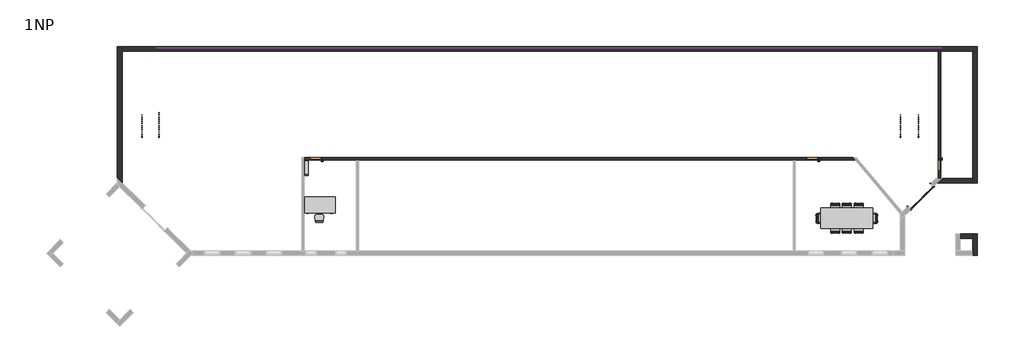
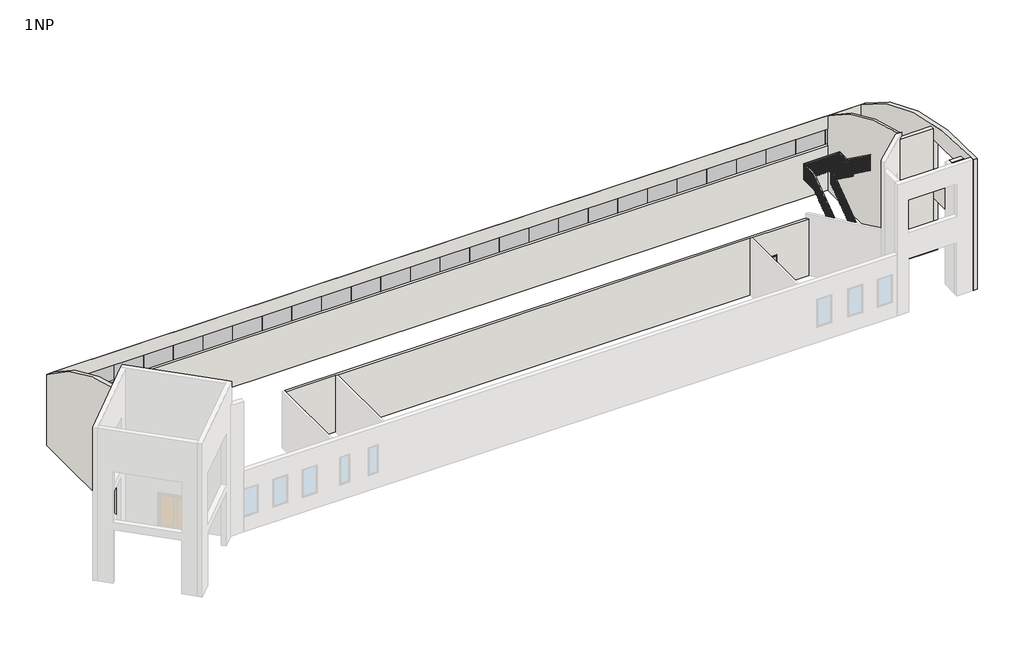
# One storey, part 2 of 2: 26 plates, 12 furniture elements, 7 walls, 4 doors, 4 railings.
"""IFC4 building model written with IfcOpenShell, lengths in millimetres."""

from ifc_helpers import new_model, si_unit, point, frame, frame_2d, origin, place, context, project, spatial, polyline, circle_curve, ellipse_curve, trimmed, segment, composite_curve, outline, extrude, faceted_brep, transform, mapped, element, save
from ifc_brep_helpers import plane_surface, cylinder_surface, advanced_brep
from components import door_1800_x_1970mm_3c2632e2, door_900_x_2000_4c66a93d, furniture_b7f3823b, furniture_3b363349, furniture_ccc35c8f, furniture_0915_x_0254_x_1830mm_1d5e155e, furniture_1200_x_3050mm_930714f4, furniture_1800_x_900mm_2fcb012d, system_panel_glazed_e7f7cd54, system_panel_glazed_2bdfee25, railing_1100mm_7da75a1e, railing_1100mm_276dff7a, railing_1100mm_749a05fc, railing_1100mm_07c990a1

model = new_model("IFC4")

# Units and contexts
model_context = context("Model", 3, world=origin())
ifc_project = project(units=[si_unit("LENGTHUNIT", "METRE", prefix="MILLI")], contexts=[model_context])

# Site, building, storey
site = spatial("IfcSite", under=ifc_project)
building = spatial("IfcBuilding", under=site)
storey = spatial("IfcBuildingStorey", under=building, Name="1NP", Elevation=0.0)

# Doors
placement = place(None, origin())
door_1800_x_1970mm_shape = door_1800_x_1970mm_3c2632e2(model_context)
element("IfcDoor", 1, ObjectType="Dvoukridle prosklene : 1800 x 1970mm", at=placement, inside=storey, context=model_context, shape_type="MappedRepresentation", body=[
    mapped(door_1800_x_1970mm_shape, transform((35397.5898577, -1433.3591998, 0.0), x_axis=(0.7071067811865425, 0.7071067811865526, 0.0), y_axis=(-0.7071067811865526, 0.7071067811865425, 0.0), z_axis=(0.0, 0.0, 1.0))),
])
door_900_x_2000_shape = door_900_x_2000_4c66a93d(model_context)
element("IfcDoor", 2, ObjectType="Jednokridle oboustrana zaruben : 900 x 2000", at=placement, inside=storey, context=model_context, shape_type="MappedRepresentation", body=[
    mapped(door_900_x_2000_shape, transform((29135.9255273, 791.5551306, 0.0), x_axis=(1.0, 0.0, 0.0), y_axis=(0.0, 1.0, 0.0), z_axis=(0.0, 0.0, 1.0))),
])
element("IfcDoor", 3, ObjectType="Jednokridle oboustrana zaruben : 900 x 2000", at=placement, inside=storey, context=model_context, shape_type="MappedRepresentation", body=[
    mapped(door_900_x_2000_shape, transform((36489.1755273, 502.5551306, 0.0), x_axis=(0.0, 1.0, 0.0), y_axis=(-1.0, 0.0, 0.0), z_axis=(0.0, 0.0, 1.0))),
])
element("IfcDoor", 4, ObjectType="Jednokridle oboustrana zaruben : 900 x 2000", at=placement, inside=storey, context=model_context, shape_type="MappedRepresentation", body=[
    mapped(door_900_x_2000_shape, transform((35.9255273, 791.5551306, 0.0), x_axis=(1.0, 0.0, 0.0), y_axis=(0.0, 1.0, 0.0), z_axis=(0.0, 0.0, 1.0))),
])

# Furniture
furniture_shape = furniture_b7f3823b(model_context)
element("IfcFurniture", 5, ObjectType="Prac.zidleH : Prac.zidleHranata", at=placement, inside=storey, context=model_context, shape_type="MappedRepresentation", body=[
    mapped(furniture_shape, transform((31897.6750188, -2087.6223918, 0.0), x_axis=(-1.0000000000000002, 0.0, 0.0), y_axis=(0.0, -1.0000000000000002, 0.0), z_axis=(0.0, 0.0, 1.0))),
])
element("IfcFurniture", 6, ObjectType="Prac.zidleH : Prac.zidleHranata", at=placement, inside=storey, context=model_context, shape_type="MappedRepresentation", body=[
    mapped(furniture_shape, transform((31615.6933794, -3325.5141951, 0.0), x_axis=(1.0000000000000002, 0.0, 0.0), y_axis=(0.0, 1.0000000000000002, 0.0), z_axis=(0.0, 0.0, 1.0))),
])
element("IfcFurniture", 7, ObjectType="Prac.zidleH : Prac.zidleHranata", at=placement, inside=storey, context=model_context, shape_type="MappedRepresentation", body=[
    mapped(furniture_shape, transform((30527.9250188, -2087.6223918, 0.0), x_axis=(-1.0000000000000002, 0.0, 0.0), y_axis=(0.0, -1.0000000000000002, 0.0), z_axis=(0.0, 0.0, 1.0))),
])
element("IfcFurniture", 8, ObjectType="Prac.zidleH : Prac.zidleHranata", at=placement, inside=storey, context=model_context, shape_type="MappedRepresentation", body=[
    mapped(furniture_shape, transform((30245.9433794, -3325.5141951, 0.0), x_axis=(1.0000000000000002, 0.0, 0.0), y_axis=(0.0, 1.0000000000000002, 0.0), z_axis=(0.0, 0.0, 1.0))),
])
element("IfcFurniture", 9, ObjectType="Prac.zidleH : Prac.zidleHranata", at=placement, inside=storey, context=model_context, shape_type="MappedRepresentation", body=[
    mapped(furniture_shape, transform((31212.8000188, -2087.6223918, 0.0), x_axis=(-1.0000000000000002, 0.0, 0.0), y_axis=(0.0, -1.0000000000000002, 0.0), z_axis=(0.0, 0.0, 1.0))),
])
element("IfcFurniture", 10, ObjectType="Prac.zidleH : Prac.zidleHranata", at=placement, inside=storey, context=model_context, shape_type="MappedRepresentation", body=[
    mapped(furniture_shape, transform((30930.8183794, -3325.5141951, 0.0), x_axis=(1.0000000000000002, 0.0, 0.0), y_axis=(0.0, 1.0000000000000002, 0.0), z_axis=(0.0, 0.0, 1.0))),
])
furniture_2_shape = furniture_3b363349(model_context)
element("IfcFurniture", 11, ObjectType="Prac.zidleP : Prac.zidlePodrucky", at=placement, inside=storey, context=model_context, shape_type="MappedRepresentation", body=[
    mapped(furniture_2_shape, transform((32615.6301008, -2847.5591131, 0.0), x_axis=(0.0, 1.0000000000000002, 0.0), y_axis=(-1.0000000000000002, 0.0, 0.0), z_axis=(0.0, 0.0, 1.0))),
])
element("IfcFurniture", 12, ObjectType="Prac.zidleP : Prac.zidlePodrucky", at=placement, inside=storey, context=model_context, shape_type="MappedRepresentation", body=[
    mapped(furniture_2_shape, transform((29527.7382975, -2565.5774738, 0.0), x_axis=(0.0, -1.0000000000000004, 0.0), y_axis=(1.0000000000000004, 0.0, 0.0), z_axis=(0.0, 0.0, 1.0))),
])
furniture_3_shape = furniture_ccc35c8f(model_context)
element("IfcFurniture", 13, ObjectType="Prac.zidle : prac.zidleZaobl", at=placement, inside=storey, context=model_context, shape_type="MappedRepresentation", body=[
    mapped(furniture_3_shape, transform((149.9255273, -2877.6948694, 0.0), x_axis=(1.0, 0.0, 0.0), y_axis=(0.0, 1.0, 0.0), z_axis=(0.0, 0.0, 1.0))),
])
furniture_0915_x_0254_x_1830mm_shape = furniture_0915_x_0254_x_1830mm_1d5e155e(model_context)
element("IfcFurniture", 14, ObjectType="PolicovaSkrin : 0915 x 0254 x 1830mm", at=placement, inside=storey, context=model_context, shape_type="MappedRepresentation", body=[
    mapped(furniture_0915_x_0254_x_1830mm_shape, transform((-919.3744727, 264.8051306, 0.0), x_axis=(0.0, 1.0, 0.0), y_axis=(-1.0, 0.0, 0.0), z_axis=(0.0, 0.0, 1.0))),
])
furniture_1200_x_3050mm_shape = furniture_1200_x_3050mm_930714f4(model_context)
element("IfcFurniture", 15, ObjectType="Konf.stul : 1200 x 3050mm", at=placement, inside=storey, context=model_context, shape_type="MappedRepresentation", body=[
    mapped(furniture_1200_x_3050mm_shape, transform((31071.6841991, -2706.5682935, 0.0), x_axis=(-1.0000000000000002, 0.0, 0.0), y_axis=(0.0, -1.0000000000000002, 0.0), z_axis=(0.0, 0.0, 1.0))),
])
furniture_1800_x_900mm_shape = furniture_1800_x_900mm_2fcb012d(model_context)
element("IfcFurniture", 16, ObjectType="Prac.stul : 1800 x 900mm", at=placement, inside=storey, context=model_context, shape_type="MappedRepresentation", body=[
    mapped(furniture_1800_x_900mm_shape, transform((1058.4255273, -1473.6448694, 0.0), x_axis=(-1.0, 0.0, 0.0), y_axis=(0.0, -1.0, 0.0), z_axis=(0.0, 0.0, 1.0))),
])

# Plates
system_panel_glazed_shape = system_panel_glazed_e7f7cd54(model_context)
element("IfcPlate", 17, ObjectType="System Panel : Glazed", at=placement, inside=storey, context=model_context, shape_type="MappedRepresentation", body=[
    mapped(system_panel_glazed_shape, transform((-8495.8244727, 7241.5551306, 2916.2475184), x_axis=(1.0, 0.0, 0.0), y_axis=(0.0, 1.0, 0.0), z_axis=(0.0, 0.0, 1.0))),
])
element("IfcPlate", 18, ObjectType="System Panel : Glazed", at=placement, inside=storey, context=model_context, shape_type="MappedRepresentation", body=[
    mapped(system_panel_glazed_shape, transform((-6665.8244727, 7241.5551306, 2916.2475184), x_axis=(1.0, 0.0, 0.0), y_axis=(0.0, 1.0, 0.0), z_axis=(0.0, 0.0, 1.0))),
])
element("IfcPlate", 19, ObjectType="System Panel : Glazed", at=placement, inside=storey, context=model_context, shape_type="MappedRepresentation", body=[
    mapped(system_panel_glazed_shape, transform((-4835.8244727, 7241.5551306, 2916.2475184), x_axis=(1.0, 0.0, 0.0), y_axis=(0.0, 1.0, 0.0), z_axis=(0.0, 0.0, 1.0))),
])
element("IfcPlate", 20, ObjectType="System Panel : Glazed", at=placement, inside=storey, context=model_context, shape_type="MappedRepresentation", body=[
    mapped(system_panel_glazed_shape, transform((-3005.8244727, 7241.5551306, 2916.2475184), x_axis=(1.0, 0.0, 0.0), y_axis=(0.0, 1.0, 0.0), z_axis=(0.0, 0.0, 1.0))),
])
element("IfcPlate", 21, ObjectType="System Panel : Glazed", at=placement, inside=storey, context=model_context, shape_type="MappedRepresentation", body=[
    mapped(system_panel_glazed_shape, transform((-1175.8244727, 7241.5551306, 2916.2475184), x_axis=(1.0, 0.0, 0.0), y_axis=(0.0, 1.0, 0.0), z_axis=(0.0, 0.0, 1.0))),
])
element("IfcPlate", 22, ObjectType="System Panel : Glazed", at=placement, inside=storey, context=model_context, shape_type="MappedRepresentation", body=[
    mapped(system_panel_glazed_shape, transform((654.1755273, 7241.5551306, 2916.2475184), x_axis=(1.0, 0.0, 0.0), y_axis=(0.0, 1.0, 0.0), z_axis=(0.0, 0.0, 1.0))),
])
element("IfcPlate", 23, ObjectType="System Panel : Glazed", at=placement, inside=storey, context=model_context, shape_type="MappedRepresentation", body=[
    mapped(system_panel_glazed_shape, transform((2484.1755273, 7241.5551306, 2916.2475184), x_axis=(1.0, 0.0, 0.0), y_axis=(0.0, 1.0, 0.0), z_axis=(0.0, 0.0, 1.0))),
])
element("IfcPlate", 24, ObjectType="System Panel : Glazed", at=placement, inside=storey, context=model_context, shape_type="MappedRepresentation", body=[
    mapped(system_panel_glazed_shape, transform((4314.1755273, 7241.5551306, 2916.2475184), x_axis=(1.0, 0.0, 0.0), y_axis=(0.0, 1.0, 0.0), z_axis=(0.0, 0.0, 1.0))),
])
element("IfcPlate", 25, ObjectType="System Panel : Glazed", at=placement, inside=storey, context=model_context, shape_type="MappedRepresentation", body=[
    mapped(system_panel_glazed_shape, transform((6144.1755273, 7241.5551306, 2916.2475184), x_axis=(1.0, 0.0, 0.0), y_axis=(0.0, 1.0, 0.0), z_axis=(0.0, 0.0, 1.0))),
])
element("IfcPlate", 26, ObjectType="System Panel : Glazed", at=placement, inside=storey, context=model_context, shape_type="MappedRepresentation", body=[
    mapped(system_panel_glazed_shape, transform((7974.1755273, 7241.5551306, 2916.2475184), x_axis=(1.0, 0.0, 0.0), y_axis=(0.0, 1.0, 0.0), z_axis=(0.0, 0.0, 1.0))),
])
element("IfcPlate", 27, ObjectType="System Panel : Glazed", at=placement, inside=storey, context=model_context, shape_type="MappedRepresentation", body=[
    mapped(system_panel_glazed_shape, transform((9804.1755273, 7241.5551306, 2916.2475184), x_axis=(1.0, 0.0, 0.0), y_axis=(0.0, 1.0, 0.0), z_axis=(0.0, 0.0, 1.0))),
])
element("IfcPlate", 28, ObjectType="System Panel : Glazed", at=placement, inside=storey, context=model_context, shape_type="MappedRepresentation", body=[
    mapped(system_panel_glazed_shape, transform((11634.1755273, 7241.5551306, 2916.2475184), x_axis=(1.0, 0.0, 0.0), y_axis=(0.0, 1.0, 0.0), z_axis=(0.0, 0.0, 1.0))),
])
element("IfcPlate", 29, ObjectType="System Panel : Glazed", at=placement, inside=storey, context=model_context, shape_type="MappedRepresentation", body=[
    mapped(system_panel_glazed_shape, transform((13464.1755273, 7241.5551306, 2916.2475184), x_axis=(1.0, 0.0, 0.0), y_axis=(0.0, 1.0, 0.0), z_axis=(0.0, 0.0, 1.0))),
])
element("IfcPlate", 30, ObjectType="System Panel : Glazed", at=placement, inside=storey, context=model_context, shape_type="MappedRepresentation", body=[
    mapped(system_panel_glazed_shape, transform((15294.1755273, 7241.5551306, 2916.2475184), x_axis=(1.0, 0.0, 0.0), y_axis=(0.0, 1.0, 0.0), z_axis=(0.0, 0.0, 1.0))),
])
element("IfcPlate", 31, ObjectType="System Panel : Glazed", at=placement, inside=storey, context=model_context, shape_type="MappedRepresentation", body=[
    mapped(system_panel_glazed_shape, transform((17124.1755273, 7241.5551306, 2916.2475184), x_axis=(1.0, 0.0, 0.0), y_axis=(0.0, 1.0, 0.0), z_axis=(0.0, 0.0, 1.0))),
])
element("IfcPlate", 32, ObjectType="System Panel : Glazed", at=placement, inside=storey, context=model_context, shape_type="MappedRepresentation", body=[
    mapped(system_panel_glazed_shape, transform((18954.1755273, 7241.5551306, 2916.2475184), x_axis=(1.0, 0.0, 0.0), y_axis=(0.0, 1.0, 0.0), z_axis=(0.0, 0.0, 1.0))),
])
element("IfcPlate", 33, ObjectType="System Panel : Glazed", at=placement, inside=storey, context=model_context, shape_type="MappedRepresentation", body=[
    mapped(system_panel_glazed_shape, transform((20784.1755273, 7241.5551306, 2916.2475184), x_axis=(1.0, 0.0, 0.0), y_axis=(0.0, 1.0, 0.0), z_axis=(0.0, 0.0, 1.0))),
])
element("IfcPlate", 34, ObjectType="System Panel : Glazed", at=placement, inside=storey, context=model_context, shape_type="MappedRepresentation", body=[
    mapped(system_panel_glazed_shape, transform((22614.1755273, 7241.5551306, 2916.2475184), x_axis=(1.0, 0.0, 0.0), y_axis=(0.0, 1.0, 0.0), z_axis=(0.0, 0.0, 1.0))),
])
element("IfcPlate", 35, ObjectType="System Panel : Glazed", at=placement, inside=storey, context=model_context, shape_type="MappedRepresentation", body=[
    mapped(system_panel_glazed_shape, transform((24444.1755273, 7241.5551306, 2916.2475184), x_axis=(1.0, 0.0, 0.0), y_axis=(0.0, 1.0, 0.0), z_axis=(0.0, 0.0, 1.0))),
])
element("IfcPlate", 36, ObjectType="System Panel : Glazed", at=placement, inside=storey, context=model_context, shape_type="MappedRepresentation", body=[
    mapped(system_panel_glazed_shape, transform((26274.1755273, 7241.5551306, 2916.2475184), x_axis=(1.0, 0.0, 0.0), y_axis=(0.0, 1.0, 0.0), z_axis=(0.0, 0.0, 1.0))),
])
element("IfcPlate", 37, ObjectType="System Panel : Glazed", at=placement, inside=storey, context=model_context, shape_type="MappedRepresentation", body=[
    mapped(system_panel_glazed_shape, transform((28104.1755273, 7241.5551306, 2916.2475184), x_axis=(1.0, 0.0, 0.0), y_axis=(0.0, 1.0, 0.0), z_axis=(0.0, 0.0, 1.0))),
])
element("IfcPlate", 38, ObjectType="System Panel : Glazed", at=placement, inside=storey, context=model_context, shape_type="MappedRepresentation", body=[
    mapped(system_panel_glazed_shape, transform((29934.1755273, 7241.5551306, 2916.2475184), x_axis=(1.0, 0.0, 0.0), y_axis=(0.0, 1.0, 0.0), z_axis=(0.0, 0.0, 1.0))),
])
element("IfcPlate", 39, ObjectType="System Panel : Glazed", at=placement, inside=storey, context=model_context, shape_type="MappedRepresentation", body=[
    mapped(system_panel_glazed_shape, transform((31764.1755273, 7241.5551306, 2916.2475184), x_axis=(1.0, 0.0, 0.0), y_axis=(0.0, 1.0, 0.0), z_axis=(0.0, 0.0, 1.0))),
])
element("IfcPlate", 40, ObjectType="System Panel : Glazed", at=placement, inside=storey, context=model_context, shape_type="MappedRepresentation", body=[
    mapped(system_panel_glazed_shape, transform((33594.1755273, 7241.5551306, 2916.2475184), x_axis=(1.0, 0.0, 0.0), y_axis=(0.0, 1.0, 0.0), z_axis=(0.0, 0.0, 1.0))),
])
element("IfcPlate", 41, ObjectType="System Panel : Glazed", at=placement, inside=storey, context=model_context, shape_type="MappedRepresentation", body=[
    mapped(system_panel_glazed_shape, transform((35424.1755273, 7241.5551306, 2916.2475184), x_axis=(1.0, 0.0, 0.0), y_axis=(0.0, 1.0, 0.0), z_axis=(0.0, 0.0, 1.0))),
])
system_panel_glazed_2_shape = system_panel_glazed_2bdfee25(model_context)
element("IfcPlate", 42, ObjectType="System Panel : Glazed", at=placement, inside=storey, context=model_context, shape_type="MappedRepresentation", body=[
    mapped(system_panel_glazed_2_shape, transform((36464.1755273, 7241.5551306, 2916.2475184), x_axis=(1.0, 0.0, 0.0), y_axis=(0.0, 1.0, 0.0), z_axis=(0.0, 0.0, 1.0))),
])

# Railings
railing_1100mm_shape = railing_1100mm_7da75a1e(model_context)
element("IfcRailing", 43, ObjectType="1100mm", at=placement, inside=storey, context=model_context, shape_type="MappedRepresentation", body=[
    mapped(railing_1100mm_shape, transform((0.0, 0.0, 0.0), x_axis=(1.0, 0.0, 0.0), y_axis=(0.0, 1.0, 0.0), z_axis=(0.0, 0.0, 1.0))),
])
railing_1100mm_2_shape = railing_1100mm_276dff7a(model_context)
element("IfcRailing", 44, ObjectType="1100mm", at=placement, inside=storey, context=model_context, shape_type="MappedRepresentation", body=[
    mapped(railing_1100mm_2_shape, transform((0.0, 0.0, 0.0), x_axis=(1.0, 0.0, 0.0), y_axis=(0.0, 1.0, 0.0), z_axis=(0.0, 0.0, 1.0))),
])
railing_1100mm_3_shape = railing_1100mm_749a05fc(model_context)
element("IfcRailing", 45, ObjectType="1100mm", at=placement, inside=storey, context=model_context, shape_type="MappedRepresentation", body=[
    mapped(railing_1100mm_3_shape, transform((0.0, 0.0, 0.0), x_axis=(1.0, 0.0, 0.0), y_axis=(0.0, 1.0, 0.0), z_axis=(0.0, 0.0, 1.0))),
])
railing_1100mm_4_shape = railing_1100mm_07c990a1(model_context)
element("IfcRailing", 46, ObjectType="1100mm", at=placement, inside=storey, context=model_context, shape_type="MappedRepresentation", body=[
    mapped(railing_1100mm_4_shape, transform((0.0, 0.0, 0.0), x_axis=(1.0, 0.0, 0.0), y_axis=(0.0, 1.0, 0.0), z_axis=(0.0, 0.0, 1.0))),
])

# Walls
element("IfcWall", 47, ObjectType="Exterior - EIFS on Mtl. Stud", at=placement, inside=storey, context=model_context, shape_type="AdvancedBrep", body=[
    advanced_brep(
    [(-11410.8244727, 7108.0551306, 0.0), (36419.9255273, 7108.0551306, 0.0), (36558.4255273, 7108.0551306, 0.0), (38455.6755273, 7108.0551306, 0.0), (38722.6755273, 7108.0551306, 0.0), (38722.6755273, 7108.0551306, 4858.4183068), (38455.6755273, 7108.0551306, 4858.4183068), (36558.4255273, 7108.0551306, 4858.4183068), (36419.9255273, 7108.0551306, 4858.4183068), (-11410.8244727, 7108.0551306, 4858.4183068), (-9410.8244727, 7108.0551306, 2916.2475184), (-9410.8244727, 7108.0551306, 4000.0), (36589.1755273, 7108.0551306, 4000.0), (36589.1755273, 7108.0551306, 2916.2475184), (38722.6755273, 7375.0551306, 0.0), (-11410.8244727, 7375.0551306, 0.0), (-11410.8244727, 7375.0551306, 4647.9646014), (38722.6755273, 7375.0551306, 4647.9646014), (-9410.8244727, 7375.0551306, 4000.0), (-9410.8244727, 7375.0551306, 2916.2475184), (36589.1755273, 7375.0551306, 2916.2475184), (36589.1755273, 7375.0551306, 4000.0)],
    [
        (0, 1),
        (1, 2),
        (2, 3),
        (3, 4),
        (4, 5),
        (5, 6),
        (6, 7),
        (7, 8),
        (8, 9),
        (9, 0),
        (10, 11),
        (11, 12),
        (12, 13),
        (13, 10),
        (14, 15),
        (15, 16),
        (16, 17),
        (17, 14),
        (18, 19),
        (19, 20),
        (20, 21),
        (21, 18),
        (0, 15),
        (14, 4),
        (17, 5, circle_curve(frame((38722.6755273, -3782.5530793, -9232.9575956), z_axis=(1.0, 0.0, 0.0), x_axis=(0.0, -1.0, 0.0)), 17809.3296337)),
        (9, 16, circle_curve(frame((-11410.8244727, -3782.5530793, -9232.9575956), z_axis=(-1.0, 0.0, 0.0), x_axis=(0.0, -1.0, 0.0)), 17809.3296337)),
        (10, 19),
        (18, 11),
        (21, 12),
        (20, 13),
    ],
    [
        plane_surface(frame((-5544.3244727, 7108.0551306, 0.0), z_axis=(0.0, -1.0, 0.0), x_axis=(1.0, 0.0, 0.0))),
        plane_surface(frame((-5544.3244727, 7375.0551306, 0.0), z_axis=(0.0, 1.0, 0.0), x_axis=(-1.0, 0.0, 0.0))),
        plane_surface(frame((-11544.3244727, 7108.0551306, 0.0), z_axis=(0.0, 0.0, -1.0), x_axis=(0.0, 1.0, 0.0))),
        plane_surface(frame((38722.6755273, 5741.5551306, 0.0), z_axis=(1.0, 0.0, 0.0), x_axis=(0.0, 1.0, 0.0))),
        plane_surface(frame((-11410.8244727, -6258.4448694, 0.0), z_axis=(-1.0, 0.0, 0.0), x_axis=(0.0, 1.0, 0.0))),
        cylinder_surface(frame((39922.6755273, -3782.5530793, -9232.9575956), z_axis=(1.0, 0.0, 0.0), x_axis=(0.0, -1.0, 0.0)), 17809.3296337),
        plane_surface(frame((-9410.8244727, 7527.4551306, 2916.2475184), z_axis=(1.0, 0.0, 0.0), x_axis=(0.0, -1.0, 0.0))),
        plane_surface(frame((-9410.8244727, 7527.4551306, 4000.0), z_axis=(0.0, 0.0, -1.0), x_axis=(0.0, -1.0, 0.0))),
        plane_surface(frame((36589.1755273, 7527.4551306, 4000.0), z_axis=(-1.0, 0.0, 0.0), x_axis=(0.0, -1.0, 0.0))),
        plane_surface(frame((36589.1755273, 7527.4551306, 2916.2475184), z_axis=(0.0, 0.0, 1.0), x_axis=(0.0, -1.0, 0.0))),
    ],
    [
        (0, [[1, 2, 3, 4, 5, 6, 7, 8, 9, 10], [11, 12, 13, 14]]),
        (1, [[15, 16, 17, 18], [19, 20, 21, 22]]),
        (2, [[-4, -3, -2, -1, 23, -15, 24]]),
        (3, [[-5, -24, -18, 25]]),
        (4, [[-10, 26, -16, -23]]),
        (5, [[-9, -8, -7, -6, -25, -17, -26]]),
        (6, [[27, -19, 28, -11]]),
        (7, [[-28, -22, 29, -12]]),
        (8, [[-29, -21, 30, -13]]),
        (9, [[-27, -14, -30, -20]]),
    ],
),
])
element("IfcWall", 48, ObjectType="Exterior - EIFS on Mtl. Stud", at=placement, inside=storey, context=model_context, shape_type="AdvancedBrep", body=[
    advanced_brep(
    [(38455.6755273, 7108.0551306, 0.0), (38455.6755273, -374.9448694, 0.0), (38455.6755273, -641.9448694, 0.0), (38455.6755273, -641.9448694, 3500.0), (38455.6755273, -3624.9448694, 3500.0), (38455.6755273, -3624.9448694, 0.0), (38455.6755273, -3891.9448694, 0.0), (38455.6755273, -4624.9448694, 0.0), (38455.6755273, -4891.9448694, 0.0), (38455.6755273, -4891.9448694, 8541.7849302), (38455.6755273, -4624.9249558, 8556.4388364), (38455.6755273, 7108.0551306, 4858.4183068), (38455.6755273, -641.9448694, 5200.0), (38455.6755273, -641.9448694, 7300.0), (38455.6755273, -3624.9448694, 7300.0), (38455.6755273, -3624.9448694, 5200.0), (38722.6755273, 7108.0551306, 0.0), (38722.6755273, 7108.0551306, 4858.4183068), (38722.6755273, -4891.9448694, 8541.7849302), (38722.6755273, -4891.9448694, 0.0), (38722.6755273, -3624.9448694, 0.0), (38722.6755273, -3624.9448694, 3500.0), (38722.6755273, -641.9448694, 3500.0), (38722.6755273, -641.9448694, 0.0), (38722.6755273, -641.9448694, 5200.0), (38722.6755273, -3624.9448694, 5200.0), (38722.6755273, -3624.9448694, 7300.0), (38722.6755273, -641.9448694, 7300.0)],
    [
        (0, 1),
        (1, 2),
        (2, 3),
        (3, 4),
        (4, 5),
        (5, 6),
        (6, 7),
        (7, 8),
        (8, 9),
        (9, 10, circle_curve(frame((38455.6755273, -3782.5530793, -9232.9575956), z_axis=(-1.0, 0.0, 0.0), x_axis=(0.0, -1.0, 0.0)), 17809.3296337)),
        (10, 11, circle_curve(frame((38455.6755273, -3782.5530793, -9232.9575956), z_axis=(-1.0, 0.0, 0.0), x_axis=(0.0, -1.0, 0.0)), 17809.3294594)),
        (11, 0),
        (12, 13),
        (13, 14),
        (14, 15),
        (15, 12),
        (16, 17),
        (17, 18, circle_curve(frame((38722.6755273, -3782.5530793, -9232.9575956), z_axis=(1.0, 0.0, 0.0), x_axis=(0.0, -1.0, 0.0)), 17809.3296337)),
        (18, 19),
        (19, 20),
        (20, 21),
        (21, 22),
        (22, 23),
        (23, 16),
        (24, 25),
        (25, 26),
        (26, 27),
        (27, 24),
        (0, 16),
        (23, 2),
        (3, 22),
        (21, 4),
        (5, 20),
        (19, 8),
        (13, 27),
        (26, 14),
        (15, 25),
        (24, 12),
        (18, 9),
        (11, 17),
    ],
    [
        plane_surface(frame((38455.6755273, 5741.5551306, 0.0), z_axis=(-1.0, 0.0, 0.0), x_axis=(0.0, -1.0, 0.0))),
        plane_surface(frame((38722.6755273, 5741.5551306, 0.0), z_axis=(1.0, 0.0, 0.0), x_axis=(0.0, 1.0, 0.0))),
        plane_surface(frame((38455.6755273, 7241.5551306, 0.0), z_axis=(0.0, 0.0, -1.0), x_axis=(1.0, 0.0, 0.0))),
        plane_surface(frame((38455.6755273, -508.4448694, 3500.0), z_axis=(0.0, 0.0, -1.0), x_axis=(1.0, 0.0, 0.0))),
        plane_surface(frame((38455.6755273, -3758.4448694, 0.0), z_axis=(0.0, 0.0, -1.0), x_axis=(1.0, 0.0, 0.0))),
        plane_surface(frame((38455.6755273, -508.4448694, 7300.0), z_axis=(0.0, 0.0, -1.0), x_axis=(1.0, 0.0, 0.0))),
        plane_surface(frame((38455.6755273, -3758.4448694, 5200.0), z_axis=(0.0, 0.0, 1.0), x_axis=(1.0, 0.0, 0.0))),
        plane_surface(frame((12455.6755273, -4891.9448694, 0.0), z_axis=(0.0, -1.0, 0.0), x_axis=(1.0, 0.0, 0.0))),
        plane_surface(frame((-5544.3244727, 7108.0551306, 0.0), z_axis=(0.0, 1.0, 0.0), x_axis=(1.0, 0.0, 0.0))),
        plane_surface(frame((38455.6755273, -641.9448694, 0.0), z_axis=(0.0, -1.0, 0.0), x_axis=(1.0, 0.0, 0.0))),
        plane_surface(frame((37555.6755273, -3624.9448694, 0.0), z_axis=(0.0, 1.0, 0.0), x_axis=(-1.0, 0.0, 0.0))),
        cylinder_surface(frame((39922.6755273, -3782.5530793, -9232.9575956), z_axis=(1.0, 0.0, 0.0), x_axis=(0.0, -1.0, 0.0)), 17809.3296337),
    ],
    [
        (0, [[1, 2, 3, 4, 5, 6, 7, 8, 9, 10, 11, 12], [13, 14, 15, 16]]),
        (1, [[17, 18, 19, 20, 21, 22, 23, 24], [25, 26, 27, 28]]),
        (2, [[-2, -1, 29, -24, 30]]),
        (3, [[-4, 31, -22, 32]]),
        (4, [[-8, -7, -6, 33, -20, 34]]),
        (5, [[-14, 35, -27, 36]]),
        (6, [[-16, 37, -25, 38]]),
        (7, [[-9, -34, -19, 39]]),
        (8, [[-12, 40, -17, -29]]),
        (9, [[-3, -30, -23, -31]]),
        (9, [[-13, -38, -28, -35]]),
        (10, [[-5, -32, -21, -33]]),
        (10, [[-15, -36, -26, -37]]),
        (11, [[-11, -10, -39, -18, -40]]),
    ],
),
])
element("IfcWall", 49, ObjectType="Exterior - EIFS on Mtl. Stud", at=placement, inside=storey, context=model_context, shape_type="AdvancedBrep", body=[
    advanced_brep(
    [(-11410.8244727, -601.928028, 0.0), (-11410.8244727, 7108.0551306, 0.0), (-11410.8244727, 7375.0551306, 0.0), (-11410.8244727, 7375.0551306, 4647.9646014), (-11410.8244727, 7108.0445023, 4858.4264309), (-11410.8244727, -601.928028, 8290.0514578), (-11677.8244727, -334.928028, 0.0), (-11677.8244727, -334.928028, 8239.4808006), (-11677.8244727, 7375.0551306, 4647.9646014), (-11677.8244727, 7375.0551306, 0.0)],
    [
        (0, 1),
        (1, 2),
        (2, 3),
        (3, 4, circle_curve(frame((-11410.8244727, -3782.5530793, -9232.9575956), z_axis=(1.0, 0.0, 0.0), x_axis=(0.0, -1.0, 0.0)), 17809.3296337)),
        (4, 5, circle_curve(frame((-11410.8244727, -3782.5530793, -9232.9575956), z_axis=(1.0, 0.0, 0.0), x_axis=(0.0, -1.0, 0.0)), 17809.3295625)),
        (5, 0),
        (6, 7),
        (7, 8, circle_curve(frame((-11677.8244727, -3782.5530793, -9232.9575956), z_axis=(-1.0, 0.0, 0.0), x_axis=(0.0, -1.0, 0.0)), 17809.3296337)),
        (8, 9),
        (9, 6),
        (0, 6),
        (9, 2),
        (8, 3),
        (5, 7, ellipse_curve(frame((-8230.1994214, -3782.5530793, -9232.9575956), z_axis=(-0.7071067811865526, -0.7071067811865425, 0.0), x_axis=(0.7071067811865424, -0.7071067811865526, 0.0)), 25186.1955048, 17809.3296337)),
    ],
    [
        plane_surface(frame((-11410.8244727, -6258.4448694, 0.0), z_axis=(1.0, 0.0, 0.0), x_axis=(0.0, 1.0, 0.0))),
        plane_surface(frame((-11677.8244727, -6258.4448694, 0.0), z_axis=(-1.0, 0.0, 0.0), x_axis=(0.0, -1.0, 0.0))),
        plane_surface(frame((-11410.8244727, -657.2255385, 0.0), z_axis=(0.0, 0.0, -1.0), x_axis=(-1.0, 0.0, 0.0))),
        plane_surface(frame((-5544.3244727, 7375.0551306, 0.0), z_axis=(0.0, 1.0, 0.0), x_axis=(-1.0, 0.0, 0.0))),
        plane_surface(frame((-12510.5858892, 497.8333885, 0.0), z_axis=(-0.7071067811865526, -0.7071067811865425, 0.0), x_axis=(-0.7071067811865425, 0.7071067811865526, 0.0))),
        cylinder_surface(frame((39922.6755273, -3782.5530793, -9232.9575956), z_axis=(1.0, 0.0, 0.0), x_axis=(0.0, -1.0, 0.0)), 17809.3296337),
    ],
    [
        (0, [[1, 2, 3, 4, 5, 6]]),
        (1, [[7, 8, 9, 10]]),
        (2, [[-2, -1, 11, -10, 12]]),
        (3, [[-3, -12, -9, 13]]),
        (4, [[-6, 14, -7, -11]]),
        (5, [[-5, -4, -13, -8, -14]]),
    ],
),
])
element("IfcWall", 50, ObjectType="Exterior - EIFS on Mtl. Stud", at=placement, inside=storey, context=model_context, shape_type="Brep", body=[
    faceted_brep([(37722.6755273, -3891.9448694, 0.0), (38455.6755273, -3891.9448694, 0.0), (38455.6755273, -3891.9448694, 8000.0), (37722.6755273, -3891.9448694, 8000.0), (37722.6755273, -3624.9448694, 0.0), (37722.6755273, -3624.9448694, 8000.0), (38455.6755273, -3624.9448694, 8000.0), (38455.6755273, -3624.9448694, 7300.0), (38455.6755273, -3624.9448694, 5200.0), (38455.6755273, -3624.9448694, 3500.0), (38455.6755273, -3624.9448694, 0.0)], [[[0, 1, 2, 3]], [[4, 5, 6, 7, 8, 9, 10]], [[1, 0, 4, 10]], [[3, 2, 6, 5]], [[0, 3, 5, 4]], [[1, 10, 9, 8, 7, 6, 2]]]),
])
element("IfcWall", 51, ObjectType="Exterior - EIFS on Mtl. Stud", at=placement, inside=storey, context=model_context, shape_type="Brep", body=[
    faceted_brep([(38455.6755273, -374.9448694, 8000.0), (38455.6755273, -374.9448694, 0.0), (36648.1692947, -374.9448694, 0.0), (36648.1692947, -374.9448694, 8000.0), (38455.6755273, -641.9448694, 0.0), (38455.6755273, -641.9448694, 3500.0), (38455.6755273, -641.9448694, 5200.0), (38455.6755273, -641.9448694, 7300.0), (38455.6755273, -641.9448694, 8000.0), (36381.1692947, -641.9448694, 8000.0), (36381.1692947, -641.9448694, 0.0)], [[[0, 1, 2, 3]], [[4, 5, 6, 7, 8, 9, 10]], [[2, 1, 4, 10]], [[0, 3, 9, 8]], [[3, 2, 10, 9]], [[0, 8, 7, 6, 5, 4, 1]]]),
])
element("IfcWall", 52, ObjectType="Interior - 138mm Partition (1-hr)", at=placement, inside=storey, context=model_context, shape_type="SweptSolid", body=[
    extrude(outline(composite_curve([segment(polyline([(7108.0551306, 0.0), (932.5551306, 0.0), (932.5551306, 2050.0), (32.5551306, 2050.0), (32.5551306, 0.0), (-374.9448694, 0.0), (-374.9448694, 8247.3292525)]), True, "CONTINUOUS"), segment(trimmed(circle_curve(frame_2d((-3782.5530793, -9232.9575956)), 17809.3296337), [point((-374.9448694, 8247.3292525))], [point((7108.0551306, 4858.4183068))], False, "CARTESIAN"), True, "CONTINUOUS"), segment(polyline([(7108.0551306, 4858.4183068), (7108.0551306, 0.0)]), True, "CONTINUOUS")], self_intersect=False)), frame((36419.9255273, 0.0, 0.0), z_axis=(1.0, 0.0, 0.0), x_axis=(0.0, 1.0, 0.0)), (0.0, 0.0, 1.0), 138.5),
])
element("IfcWall", 53, ObjectType="Interior - 138mm Partition (1-hr)", at=placement, inside=storey, context=model_context, shape_type="Brep", body=[
    faceted_brep([(28665.9255273, 860.8051306, 0.0), (465.9255273, 860.8051306, 0.0), (465.9255273, 860.8051306, 2050.0), (-434.0744727, 860.8051306, 2050.0), (-434.0744727, 860.8051306, 0.0), (-741.5744727, 860.8051306, 0.0), (-741.5744727, 860.8051306, 3700.0), (31432.8028061, 860.8051306, 3700.0), (31432.8028061, 860.8051306, 0.0), (29565.9255273, 860.8051306, 0.0), (29565.9255273, 860.8051306, 2050.0), (28665.9255273, 860.8051306, 2050.0), (465.9255273, 722.3051306, 2050.0), (465.9255273, 722.3051306, 0.0), (2319.9255273, 722.3051306, 0.0), (2458.4255273, 722.3051306, 0.0), (27919.9255273, 722.3051306, 0.0), (28058.4255273, 722.3051306, 0.0), (28665.9255273, 722.3051306, 0.0), (28665.9255273, 722.3051306, 2050.0), (29565.9255273, 722.3051306, 2050.0), (29565.9255273, 722.3051306, 0.0), (31549.018105, 722.3051306, 0.0), (31549.018105, 722.3051306, 3700.0), (28058.4255273, 722.3051306, 3700.0), (27919.9255273, 722.3051306, 3700.0), (2458.4255273, 722.3051306, 3700.0), (2319.9255273, 722.3051306, 3700.0), (-741.5744727, 722.3051306, 3700.0), (-741.5744727, 722.3051306, 0.0), (-434.0744727, 722.3051306, 0.0), (-434.0744727, 722.3051306, 2050.0)], [[[0, 1, 2, 3, 4, 5, 6, 7, 8, 9, 10, 11]], [[12, 13, 14, 15, 16, 17, 18, 19, 20, 21, 22, 23, 24, 25, 26, 27, 28, 29, 30, 31]], [[22, 21, 9, 8]], [[18, 17, 16, 15, 14, 13, 1, 0]], [[30, 29, 5, 4]], [[7, 6, 28, 27, 26, 25, 24, 23]], [[8, 7, 23, 22]], [[6, 5, 29, 28]], [[10, 9, 21, 20]], [[11, 10, 20, 19]], [[0, 11, 19, 18]], [[2, 1, 13, 12]], [[3, 2, 12, 31]], [[4, 3, 31, 30]]]),
])

save(model, "model.ifc")
